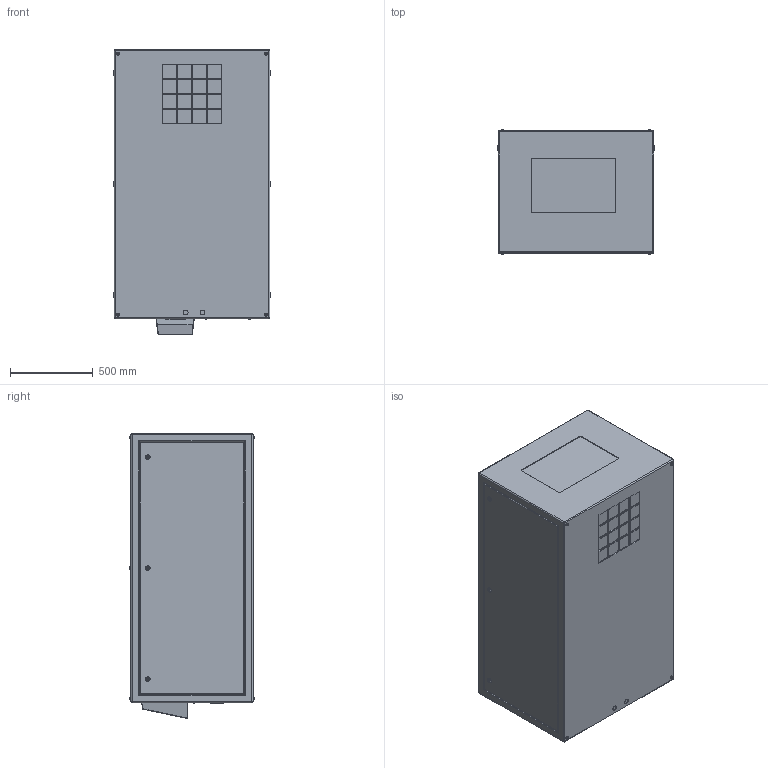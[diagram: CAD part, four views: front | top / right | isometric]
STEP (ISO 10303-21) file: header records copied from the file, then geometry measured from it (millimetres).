
FILE_DESCRIPTION (( 'STEP AP214' ), '1' );
FILE_NAME ('Cyclone 55.525.L R11.STEP', '2022-12-17T18:08:06', ( '' ), ( '' ), 'SwSTEP 2.0', 'SolidWorks 2022', '' );
FILE_SCHEMA (( 'AUTOMOTIVE_DESIGN' ));
Length unit declared in the file: inch
Products named in the file (1): Cyclone 55.525.L R11
Bounding box: 952.5 x 751.2 x 1720.85 mm (x, y, z)
Volume: 1123580616.1 mm3; surface area: 7362772.7 mm2
Topology: 1 solids, 7 shells, 532 faces, 1256 edges, 804 vertices
Faces by surface type: plane 260, cylinder 220, torus 44, sphere 8
Entity records: 19357 total; most frequent: CARTESIAN_POINT 3161, DIRECTION 2694, ORIENTED_EDGE 2496, EDGE_CURVE 1248, AXIS2_PLACEMENT_3D 1009, VERTEX_POINT 804, LINE 676, VECTOR 676
